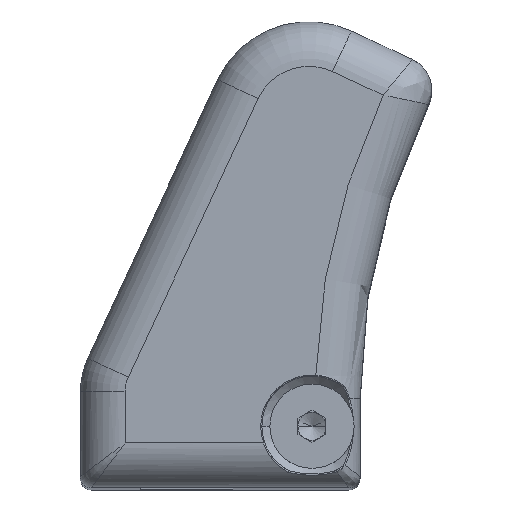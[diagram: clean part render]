
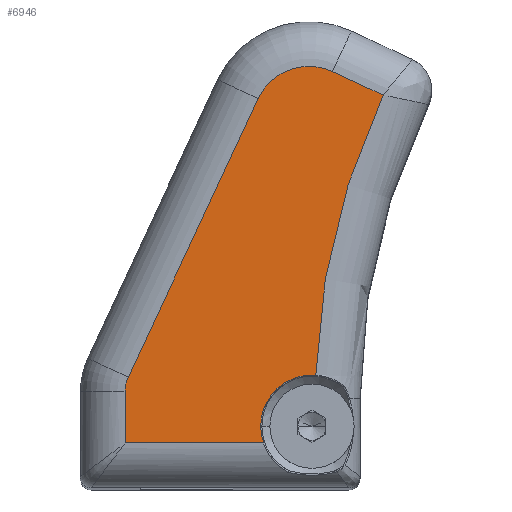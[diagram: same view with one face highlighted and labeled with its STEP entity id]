
A CAD part, top view. The second image highlights one B-rep face of the part: STEP entity #6946.
In plain terms, the highlighted planar face has unit normal (0, 0, 1).
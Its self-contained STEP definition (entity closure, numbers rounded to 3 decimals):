
#7 = AXIS2_PLACEMENT_3D ( 'NONE', #10001, #5442, #9907 ) ;
#112 = LINE ( 'NONE', #8792, #2226 ) ;
#269 = CIRCLE ( 'NONE', #5405, 4.58 ) ;
#751 = VERTEX_POINT ( 'NONE', #11097 ) ;
#961 = DIRECTION ( 'NONE',  ( 0., 0., -1. ) ) ;
#966 = EDGE_CURVE ( 'NONE', #9121, #10547, #1599, .T. ) ;
#1280 = EDGE_CURVE ( 'NONE', #5887, #9121, #6063, .T. ) ;
#1406 = LINE ( 'NONE', #10661, #6022 ) ;
#1532 = DIRECTION ( 'NONE',  ( 0., -1., 0. ) ) ;
#1599 = CIRCLE ( 'NONE', #5522, 3. ) ;
#2057 = DIRECTION ( 'NONE',  ( 1., 0., 0. ) ) ;
#2144 = DIRECTION ( 'NONE',  ( 0., 0., 1. ) ) ;
#2226 = VECTOR ( 'NONE', #1532, 1000. ) ;
#2251 = CARTESIAN_POINT ( 'NONE',  ( -4.808, 29.276, 6. ) ) ;
#2504 = LINE ( 'NONE', #7259, #4458 ) ;
#2753 = EDGE_CURVE ( 'NONE', #10547, #4991, #112, .T. ) ;
#3419 = ORIENTED_EDGE ( 'NONE', *, *, #5430, .T. ) ;
#3530 = AXIS2_PLACEMENT_3D ( 'NONE', #7149, #2144, #10875 ) ;
#3609 = CARTESIAN_POINT ( 'NONE',  ( -16.7, 3.109, 6. ) ) ;
#3619 = DIRECTION ( 'NONE',  ( -0.423, -0.906, 0. ) ) ;
#3799 = CARTESIAN_POINT ( 'NONE',  ( 6.358, 29.587, 6. ) ) ;
#4117 = ORIENTED_EDGE ( 'NONE', *, *, #7925, .T. ) ;
#4458 = VECTOR ( 'NONE', #2057, 1000. ) ;
#4509 = PLANE ( 'NONE',  #3530 ) ;
#4802 = CARTESIAN_POINT ( 'NONE',  ( -13.7, 3.109, 6. ) ) ;
#4852 = DIRECTION ( 'NONE',  ( 0., 0., 1. ) ) ;
#4991 = VERTEX_POINT ( 'NONE', #5466 ) ;
#5032 = ORIENTED_EDGE ( 'NONE', *, *, #5651, .T. ) ;
#5138 = ORIENTED_EDGE ( 'NONE', *, *, #966, .T. ) ;
#5257 = AXIS2_PLACEMENT_3D ( 'NONE', #5311, #11464, #9723 ) ;
#5311 = CARTESIAN_POINT ( 'NONE',  ( -0.276, 27.163, 6. ) ) ;
#5405 = AXIS2_PLACEMENT_3D ( 'NONE', #6709, #961, #9785 ) ;
#5430 = EDGE_CURVE ( 'NONE', #7599, #5887, #7261, .T. ) ;
#5442 = DIRECTION ( 'NONE',  ( 0., 0., -1. ) ) ;
#5466 = CARTESIAN_POINT ( 'NONE',  ( -16.7, -1.5, 6. ) ) ;
#5522 = AXIS2_PLACEMENT_3D ( 'NONE', #4802, #4852, #6689 ) ;
#5651 = EDGE_CURVE ( 'NONE', #751, #10266, #269, .T. ) ;
#5887 = VERTEX_POINT ( 'NONE', #2251 ) ;
#6022 = VECTOR ( 'NONE', #8930, 1000. ) ;
#6063 = LINE ( 'NONE', #9724, #6496 ) ;
#6496 = VECTOR ( 'NONE', #3619, 1000. ) ;
#6689 = DIRECTION ( 'NONE',  ( 1., 0., 0. ) ) ;
#6709 = CARTESIAN_POINT ( 'NONE',  ( 0., 0., 6. ) ) ;
#6741 = EDGE_LOOP ( 'NONE', ( #4117, #5032, #9853, #10013, #3419, #11408, #5138, #7005 ) ) ;
#6946 = ADVANCED_FACE ( 'NONE', ( #11146 ), #4509, .T. ) ;
#7005 = ORIENTED_EDGE ( 'NONE', *, *, #2753, .T. ) ;
#7149 = CARTESIAN_POINT ( 'NONE',  ( -19.7, -4.5, 6. ) ) ;
#7259 = CARTESIAN_POINT ( 'NONE',  ( 3.3, -1.5, 6. ) ) ;
#7261 = CIRCLE ( 'NONE', #5257, 5. ) ;
#7492 = CARTESIAN_POINT ( 'NONE',  ( 0.334, 4.568, 6. ) ) ;
#7599 = VERTEX_POINT ( 'NONE', #8084 ) ;
#7817 = EDGE_CURVE ( 'NONE', #10145, #7599, #1406, .T. ) ;
#7925 = EDGE_CURVE ( 'NONE', #4991, #751, #2504, .T. ) ;
#8084 = CARTESIAN_POINT ( 'NONE',  ( 1.837, 31.695, 6. ) ) ;
#8792 = CARTESIAN_POINT ( 'NONE',  ( -16.7, -4.5, 6. ) ) ;
#8930 = DIRECTION ( 'NONE',  ( -0.906, 0.423, 0. ) ) ;
#9121 = VERTEX_POINT ( 'NONE', #10986 ) ;
#9548 = CIRCLE ( 'NONE', #7, 63.588 ) ;
#9723 = DIRECTION ( 'NONE',  ( 1., 0., 0. ) ) ;
#9724 = CARTESIAN_POINT ( 'NONE',  ( -16.419, 4.376, 6. ) ) ;
#9785 = DIRECTION ( 'NONE',  ( 1., 0., 0. ) ) ;
#9853 = ORIENTED_EDGE ( 'NONE', *, *, #11456, .T. ) ;
#9907 = DIRECTION ( 'NONE',  ( 1., 0., 0. ) ) ;
#10001 = CARTESIAN_POINT ( 'NONE',  ( 63.888, 2.5, 6. ) ) ;
#10013 = ORIENTED_EDGE ( 'NONE', *, *, #7817, .T. ) ;
#10145 = VERTEX_POINT ( 'NONE', #3799 ) ;
#10266 = VERTEX_POINT ( 'NONE', #7492 ) ;
#10547 = VERTEX_POINT ( 'NONE', #3609 ) ;
#10661 = CARTESIAN_POINT ( 'NONE',  ( 1.837, 31.695, 6. ) ) ;
#10875 = DIRECTION ( 'NONE',  ( 1., 0., 0. ) ) ;
#10986 = CARTESIAN_POINT ( 'NONE',  ( -16.419, 4.376, 6. ) ) ;
#11097 = CARTESIAN_POINT ( 'NONE',  ( -4.327, -1.5, 6. ) ) ;
#11146 = FACE_OUTER_BOUND ( 'NONE', #6741, .T. ) ;
#11408 = ORIENTED_EDGE ( 'NONE', *, *, #1280, .T. ) ;
#11456 = EDGE_CURVE ( 'NONE', #10266, #10145, #9548, .T. ) ;
#11464 = DIRECTION ( 'NONE',  ( 0., 0., 1. ) ) ;
